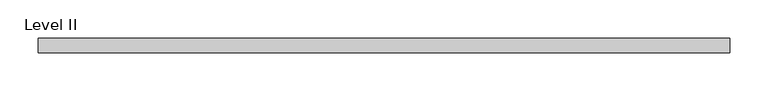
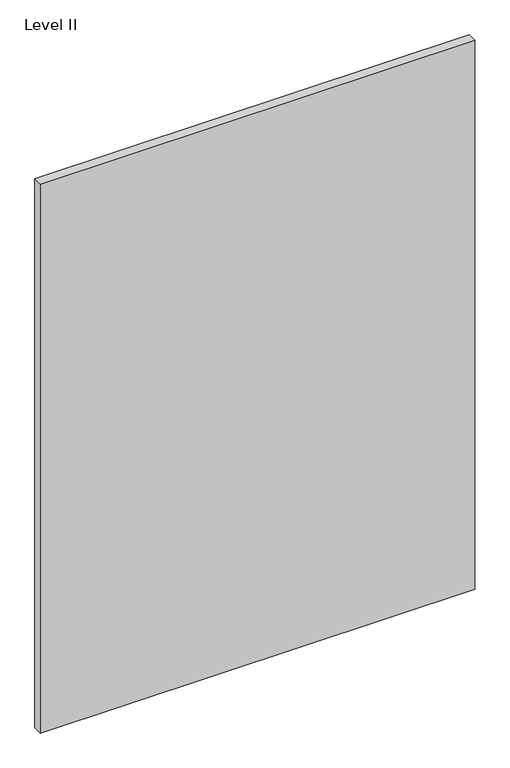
"""IFC4 building model written with IfcOpenShell, lengths in millimetres: proxy geometry, Panel-Fascia-Teknion-Altos-Standard : Level II."""

from ifc_helpers import new_model, si_unit, frame, origin, place, context, project, spatial, polyline, outline, extrude, source, transform, mapped, element, save


def level_ii_c8f04d20(model_context):
    return source(origin(), model_context, "Body", "SweptSolid", [
        extrude(outline(polyline([(454.025, 9.525), (454.025, -9.525), (-454.025, -9.525), (-454.025, 9.525), (454.025, 9.525)])), frame((0.0, 0.0, 3.175), z_axis=(0.0, 0.0, 1.0), x_axis=(1.0, 0.0, 0.0)), (0.0, 0.0, 1.0), 1212.85),
    ])


if __name__ == "__main__":
    model = new_model("IFC4")
    model_context = context("Model", 3, world=origin())
    ifc_project = project(units=[si_unit("LENGTHUNIT", "METRE", prefix="MILLI")], contexts=[model_context])
    site = spatial("IfcSite", under=ifc_project)
    building = spatial("IfcBuilding", under=site)
    placement = place(None, origin())
    level_ii_shape = level_ii_c8f04d20(model_context)
    element("IfcBuildingElementProxy", 1, Name="Panel-Fascia-Teknion-Altos-Standard : Level II", ObjectType="Panel-Fascia-Teknion-Altos-Standard : Level II", at=placement, inside=building, context=model_context, shape_type="MappedRepresentation", body=[
        mapped(level_ii_shape, transform((0.0, 0.0, 0.0), x_axis=(1.0, 0.0, 0.0), y_axis=(0.0, 1.0, 0.0), z_axis=(0.0, 0.0, 1.0))),
    ])
    save(model, "model.ifc")
